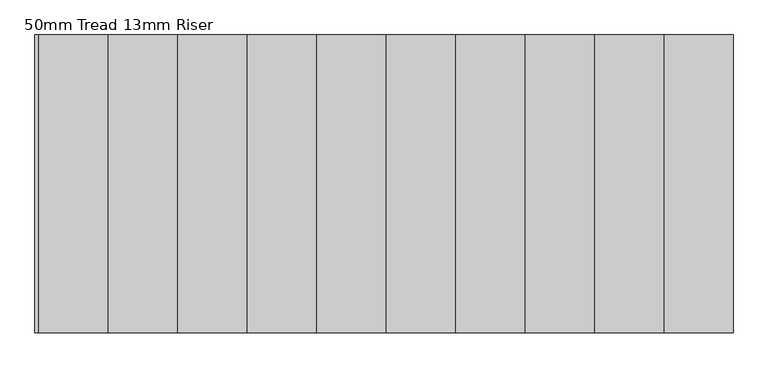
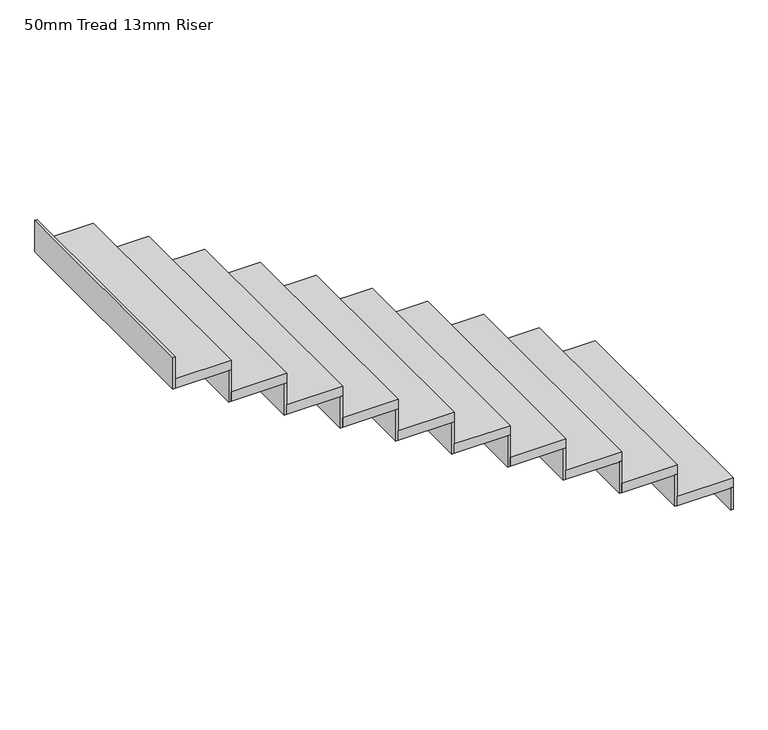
"""IFC4 building model written with IfcOpenShell, lengths in millimetres: stair flight geometry, 50mm Tread 13mm Riser."""

import ifcopenshell
import ifcopenshell.guid

model = None  # the IFC model being written
_history = None  # IfcOwnerHistory: only IFC2X3 demands one
_inside = {}  # id of a spatial element -> (the spatial element, [elements in it])
_under = {}  # id of a project, library or spatial element -> (it, [spatial elements below it])
_declared = {}  # id of a project -> (the project, [libraries it declares])
_typed = {}  # id of a type object -> (the type object, [elements of that type])
_made_of = {}  # id of a material, layer set ... -> (it, [elements and type objects made of it])


def new_model(schema):
    """Start an empty IFC model of exactly this schema.

    Asked for "IFC4X3", IfcOpenShell would pick the latest addendum, in which some entities
    have other attributes; the version numbers below select the first issue.
    IFC2X3 requires an IfcOwnerHistory on every rooted entity: one is made here for all.
    """
    global model, _history
    if schema == "IFC4X3":
        model = ifcopenshell.file(schema_version=(4, 3, 0, 0))
    else:
        model = ifcopenshell.file(schema=schema)
    _inside.clear()
    _under.clear()
    _declared.clear()
    _typed.clear()
    _made_of.clear()
    _history = None
    if model.schema == "IFC2X3":
        org = make("IfcOrganization", Name="unknown")
        user = make(
            "IfcPersonAndOrganization",
            ThePerson=make("IfcPerson", FamilyName="unknown"),
            TheOrganization=org,
        )
        app = make(
            "IfcApplication",
            ApplicationDeveloper=org,
            Version="unknown",
            ApplicationFullName="unknown",
            ApplicationIdentifier="unknown",
        )
        _history = make(
            "IfcOwnerHistory",
            OwningUser=user,
            OwningApplication=app,
            ChangeAction="ADDED",
            CreationDate=0,
        )
    return model


def make(cls, **values):
    """One entity of the class cls with the attributes given. An attribute that is None is left unset."""
    return model.create_entity(
        cls, **{name: value for name, value in values.items() if value is not None}
    )


def rooted(cls, **values):
    """An entity with a GlobalId (a new one), such as an element, a storey or a relation."""
    return make(cls, GlobalId=ifcopenshell.guid.new(), OwnerHistory=_history, **values)


def si_unit(unit_type, name, prefix=None):
    """IfcSIUnit, for example si_unit("LENGTHUNIT", "METRE", prefix="MILLI")."""
    return make("IfcSIUnit", UnitType=unit_type, Prefix=prefix, Name=name)


def assignment(units):
    """IfcUnitAssignment: the units of a project."""
    return None if units is None else make("IfcUnitAssignment", Units=units)


def point(xyz):
    """IfcCartesianPoint."""
    return None if xyz is None else make("IfcCartesianPoint", Coordinates=xyz)


def direction(xyz):
    """IfcDirection."""
    return None if xyz is None else make("IfcDirection", DirectionRatios=xyz)


def frame(location, z_axis=None, x_axis=None):
    """IfcAxis2Placement3D, a coordinate frame: its origin and axes. An axis left out is left unset."""
    return make(
        "IfcAxis2Placement3D",
        Location=point(location),
        Axis=direction(z_axis),
        RefDirection=direction(x_axis),
    )


def origin():
    """The frame at (0, 0, 0) with its axes left unset."""
    return frame((0.0, 0.0, 0.0))


def place(relative_to, where):
    """IfcLocalPlacement: puts the frame where relative to a parent placement (None: the world)."""
    return make(
        "IfcLocalPlacement", PlacementRelTo=relative_to, RelativePlacement=where
    )


def context(
    kind, dimensions, precision=None, world=None, true_north=None, identifier=None
):
    """IfcGeometricRepresentationContext, for example the 3D "Model" context."""
    return make(
        "IfcGeometricRepresentationContext",
        ContextIdentifier=identifier,
        ContextType=kind,
        CoordinateSpaceDimension=dimensions,
        Precision=precision,
        WorldCoordinateSystem=world,
        TrueNorth=true_north,
    )


def project(units=None, contexts=None):
    """IfcProject with its units and contexts."""
    return rooted(
        "IfcProject",
        Name="project",
        RepresentationContexts=contexts,
        UnitsInContext=assignment(units),
    )


def spatial(cls, under=None, at=None, **own):
    """A site, building, storey or space (cls), placed at a placement, below another one or the project."""
    s = rooted(cls, ObjectPlacement=at, **own)
    if under is not None:
        _under.setdefault(under.id(), (under, []))[1].append(s)
    return s


def polyline(points):
    """IfcPolyline through the points."""
    return make("IfcPolyline", Points=[point(p) for p in points])


def outline(outer, holes=None, kind="AREA"):
    """IfcArbitraryClosedProfileDef: a profile drawn as a closed curve; with holes, ...WithVoids."""
    if holes is None:
        return make("IfcArbitraryClosedProfileDef", ProfileType=kind, OuterCurve=outer)
    return make(
        "IfcArbitraryProfileDefWithVoids",
        ProfileType=kind,
        OuterCurve=outer,
        InnerCurves=holes,
    )


def extrude(swept, where, along, depth):
    """IfcExtrudedAreaSolid: the profile swept, set in the frame where, extruded along a direction by depth."""
    return make(
        "IfcExtrudedAreaSolid",
        SweptArea=swept,
        Position=where,
        ExtrudedDirection=direction(along),
        Depth=depth,
    )


def shape(context_of_items, identifier, shape_type, items):
    """IfcShapeRepresentation: the items that make up one representation, for example the "Body"."""
    return make(
        "IfcShapeRepresentation",
        ContextOfItems=context_of_items,
        RepresentationIdentifier=identifier,
        RepresentationType=shape_type,
        Items=items,
    )


def source(mapping_origin, context_of_items, identifier, shape_type, items):
    """IfcRepresentationMap: a shape defined once, which mapped items show again and again."""
    return make(
        "IfcRepresentationMap",
        MappingOrigin=mapping_origin,
        MappedRepresentation=shape(context_of_items, identifier, shape_type, items),
    )


def transform(
    local_origin,
    x_axis=None,
    y_axis=None,
    z_axis=None,
    scale=None,
    scale2=None,
    scale3=None,
    uniform=True,
):
    """IfcCartesianTransformationOperator3D, or its non-uniform kind. x_axis, y_axis, z_axis: its Axis1, 2, 3."""
    if uniform:
        return make(
            "IfcCartesianTransformationOperator3D",
            Axis1=direction(x_axis),
            Axis2=direction(y_axis),
            LocalOrigin=point(local_origin),
            Scale=scale,
            Axis3=direction(z_axis),
        )
    return make(
        "IfcCartesianTransformationOperator3DnonUniform",
        Axis1=direction(x_axis),
        Axis2=direction(y_axis),
        LocalOrigin=point(local_origin),
        Scale=scale,
        Axis3=direction(z_axis),
        Scale2=scale2,
        Scale3=scale3,
    )


def mapped(mapping_source, mapping_target):
    """IfcMappedItem: shows the shape of a source again, moved by a transform."""
    return make(
        "IfcMappedItem", MappingSource=mapping_source, MappingTarget=mapping_target
    )


def made_of(thing, what):
    """Note that an element or type object is made of a material, layer set ...; save() writes the relation."""
    if what is not None:
        _made_of.setdefault(what.id(), (what, []))[1].append(thing)
    return thing


def element(
    cls,
    number,
    at=None,
    inside=None,
    cuts=None,
    type_object=None,
    material=None,
    context=None,
    identifier="Body",
    shape_type=None,
    held_by="IfcProductDefinitionShape",
    body=None,
    shapes=None,
    **own,
):
    """One element of the class cls, such as IfcWall. Its Tag is "e" and its number.

    at: its placement. inside: the storey or other place that contains it. cuts: it is an
    opening in that element (IfcRelVoidsElement). A single representation is given by context,
    identifier, shape_type and body (its items); several are given by shapes. held_by: the class
    of the entity that holds the representations. save() writes the other relations.
    """
    e = rooted(cls, Tag="e%d" % number, ObjectPlacement=at, **own)
    if body is not None:
        shapes = [shape(context, identifier, shape_type, body)]
    if shapes is not None:
        e.Representation = make(held_by, Representations=shapes)
    if inside is not None:
        _inside.setdefault(inside.id(), (inside, []))[1].append(e)
    if cuts is not None:
        rooted(
            "IfcRelVoidsElement", RelatingBuildingElement=cuts, RelatedOpeningElement=e
        )
    if type_object is not None:
        _typed.setdefault(type_object.id(), (type_object, []))[1].append(e)
    return made_of(e, material)


def aggregate(whole, parts):
    """IfcRelAggregates: a whole, such as a stair, and the parts it consists of."""
    return rooted("IfcRelAggregates", RelatingObject=whole, RelatedObjects=parts)


def save(model, path):
    """Write the relations noted so far, then the file.

    IfcRelAggregates (storeys below a building ...), IfcRelContainedInSpatialStructure (elements
    in a storey), IfcRelDefinesByType, IfcRelAssociatesMaterial and IfcRelDeclares: one each for
    every whole, place, type object, material and project.
    """
    for whole, parts in _under.values():
        aggregate(whole, parts)
    for where, things in _inside.values():
        rooted(
            "IfcRelContainedInSpatialStructure",
            RelatedElements=things,
            RelatingStructure=where,
        )
    for kind, things in _typed.values():
        rooted("IfcRelDefinesByType", RelatedObjects=things, RelatingType=kind)
    for what, things in _made_of.values():
        rooted("IfcRelAssociatesMaterial", RelatedObjects=things, RelatingMaterial=what)
    for by, libraries in _declared.values():
        rooted("IfcRelDeclares", RelatingContext=by, RelatedDefinitions=libraries)
    model.write(path)


def stair_flight_50mm_tread_13mm_riser_9f3b3ad1(model_context):
    return source(origin(), model_context, "Body", "SweptSolid", [
        extrude(outline(polyline([(-76709.6407976, 11339.2777512), (-76697.1407976, 11339.2777512), (-76697.1407976, 10139.2777512), (-76709.6407976, 10139.2777512), (-76709.6407976, 11339.2777512)])), frame((0.0, 0.0, 44170.0), z_axis=(0.0, 0.0, 1.0), x_axis=(1.0, 0.0, 0.0)), (0.0, 0.0, 1.0), 117.2465025),
        extrude(outline(polyline([(-76977.1407976, 10139.2777512), (-76977.1407976, 11339.2777512), (-76697.1407976, 11339.2777512), (-76697.1407976, 10139.2777512), (-76977.1407976, 10139.2777512)])), frame((0.0, 0.0, 44287.2465025), z_axis=(0.0, 0.0, 1.0), x_axis=(1.0, 0.0, 0.0)), (0.0, 0.0, 1.0), 50.0),
        extrude(outline(polyline([(-76989.6407976, 11339.2777512), (-76977.1407976, 11339.2777512), (-76977.1407976, 10139.2777512), (-76989.6407976, 10139.2777512), (-76989.6407976, 11339.2777512)])), frame((0.0, 0.0, 44287.2465025), z_axis=(0.0, 0.0, 1.0), x_axis=(1.0, 0.0, 0.0)), (0.0, 0.0, 1.0), 167.2465025),
        extrude(outline(polyline([(-77257.1407976, 10139.2777512), (-77257.1407976, 11339.2777512), (-76977.1407976, 11339.2777512), (-76977.1407976, 10139.2777512), (-77257.1407976, 10139.2777512)])), frame((0.0, 0.0, 44454.4930051), z_axis=(0.0, 0.0, 1.0), x_axis=(1.0, 0.0, 0.0)), (0.0, 0.0, 1.0), 50.0),
        extrude(outline(polyline([(-77269.6407976, 11339.2777512), (-77257.1407976, 11339.2777512), (-77257.1407976, 10139.2777512), (-77269.6407976, 10139.2777512), (-77269.6407976, 11339.2777512)])), frame((0.0, 0.0, 44454.4930051), z_axis=(0.0, 0.0, 1.0), x_axis=(1.0, 0.0, 0.0)), (0.0, 0.0, 1.0), 167.2465025),
        extrude(outline(polyline([(-77537.1407976, 10139.2777512), (-77537.1407976, 11339.2777512), (-77257.1407976, 11339.2777512), (-77257.1407976, 10139.2777512), (-77537.1407976, 10139.2777512)])), frame((0.0, 0.0, 44621.7395076), z_axis=(0.0, 0.0, 1.0), x_axis=(1.0, 0.0, 0.0)), (0.0, 0.0, 1.0), 50.0),
        extrude(outline(polyline([(-77549.6407976, 11339.2777512), (-77537.1407976, 11339.2777512), (-77537.1407976, 10139.2777512), (-77549.6407976, 10139.2777512), (-77549.6407976, 11339.2777512)])), frame((0.0, 0.0, 44621.7395076), z_axis=(0.0, 0.0, 1.0), x_axis=(1.0, 0.0, 0.0)), (0.0, 0.0, 1.0), 167.2465025),
        extrude(outline(polyline([(-77817.1407976, 10139.2777512), (-77817.1407976, 11339.2777512), (-77537.1407976, 11339.2777512), (-77537.1407976, 10139.2777512), (-77817.1407976, 10139.2777512)])), frame((0.0, 0.0, 44788.9860101), z_axis=(0.0, 0.0, 1.0), x_axis=(1.0, 0.0, 0.0)), (0.0, 0.0, 1.0), 50.0),
        extrude(outline(polyline([(-77829.6407976, 11339.2777512), (-77817.1407976, 11339.2777512), (-77817.1407976, 10139.2777512), (-77829.6407976, 10139.2777512), (-77829.6407976, 11339.2777512)])), frame((0.0, 0.0, 44788.9860101), z_axis=(0.0, 0.0, 1.0), x_axis=(1.0, 0.0, 0.0)), (0.0, 0.0, 1.0), 167.2465025),
        extrude(outline(polyline([(-78097.1407976, 10139.2777512), (-78097.1407976, 11339.2777512), (-77817.1407976, 11339.2777512), (-77817.1407976, 10139.2777512), (-78097.1407976, 10139.2777512)])), frame((0.0, 0.0, 44956.2325126), z_axis=(0.0, 0.0, 1.0), x_axis=(1.0, 0.0, 0.0)), (0.0, 0.0, 1.0), 50.0),
        extrude(outline(polyline([(-78109.6407976, 11339.2777512), (-78097.1407976, 11339.2777512), (-78097.1407976, 10139.2777512), (-78109.6407976, 10139.2777512), (-78109.6407976, 11339.2777512)])), frame((0.0, 0.0, 44956.2325126), z_axis=(0.0, 0.0, 1.0), x_axis=(1.0, 0.0, 0.0)), (0.0, 0.0, 1.0), 167.2465025),
        extrude(outline(polyline([(-78377.1407976, 10139.2777512), (-78377.1407976, 11339.2777512), (-78097.1407976, 11339.2777512), (-78097.1407976, 10139.2777512), (-78377.1407976, 10139.2777512)])), frame((0.0, 0.0, 45123.4790152), z_axis=(0.0, 0.0, 1.0), x_axis=(1.0, 0.0, 0.0)), (0.0, 0.0, 1.0), 50.0),
        extrude(outline(polyline([(-78389.6407976, 11339.2777512), (-78377.1407976, 11339.2777512), (-78377.1407976, 10139.2777512), (-78389.6407976, 10139.2777512), (-78389.6407976, 11339.2777512)])), frame((0.0, 0.0, 45123.4790152), z_axis=(0.0, 0.0, 1.0), x_axis=(1.0, 0.0, 0.0)), (0.0, 0.0, 1.0), 167.2465025),
        extrude(outline(polyline([(-78657.1407976, 10139.2777512), (-78657.1407976, 11339.2777512), (-78377.1407976, 11339.2777512), (-78377.1407976, 10139.2777512), (-78657.1407976, 10139.2777512)])), frame((0.0, 0.0, 45290.7255177), z_axis=(0.0, 0.0, 1.0), x_axis=(1.0, 0.0, 0.0)), (0.0, 0.0, 1.0), 50.0),
        extrude(outline(polyline([(-78669.6407976, 11339.2777512), (-78657.1407976, 11339.2777512), (-78657.1407976, 10139.2777512), (-78669.6407976, 10139.2777512), (-78669.6407976, 11339.2777512)])), frame((0.0, 0.0, 45290.7255177), z_axis=(0.0, 0.0, 1.0), x_axis=(1.0, 0.0, 0.0)), (0.0, 0.0, 1.0), 167.2465025),
        extrude(outline(polyline([(-78937.1407976, 10139.2777512), (-78937.1407976, 11339.2777512), (-78657.1407976, 11339.2777512), (-78657.1407976, 10139.2777512), (-78937.1407976, 10139.2777512)])), frame((0.0, 0.0, 45457.9720202), z_axis=(0.0, 0.0, 1.0), x_axis=(1.0, 0.0, 0.0)), (0.0, 0.0, 1.0), 50.0),
        extrude(outline(polyline([(-78949.6407976, 11339.2777512), (-78937.1407976, 11339.2777512), (-78937.1407976, 10139.2777512), (-78949.6407976, 10139.2777512), (-78949.6407976, 11339.2777512)])), frame((0.0, 0.0, 45457.9720202), z_axis=(0.0, 0.0, 1.0), x_axis=(1.0, 0.0, 0.0)), (0.0, 0.0, 1.0), 167.2465025),
        extrude(outline(polyline([(-79217.1407976, 10139.2777512), (-79217.1407976, 11339.2777512), (-78937.1407976, 11339.2777512), (-78937.1407976, 10139.2777512), (-79217.1407976, 10139.2777512)])), frame((0.0, 0.0, 45625.2185228), z_axis=(0.0, 0.0, 1.0), x_axis=(1.0, 0.0, 0.0)), (0.0, 0.0, 1.0), 50.0),
        extrude(outline(polyline([(-79229.6407976, 11339.2777512), (-79217.1407976, 11339.2777512), (-79217.1407976, 10139.2777512), (-79229.6407976, 10139.2777512), (-79229.6407976, 11339.2777512)])), frame((0.0, 0.0, 45625.2185228), z_axis=(0.0, 0.0, 1.0), x_axis=(1.0, 0.0, 0.0)), (0.0, 0.0, 1.0), 167.2465025),
        extrude(outline(polyline([(-79509.6407976, 11339.2777512), (-79497.1407976, 11339.2777512), (-79497.1407976, 10139.2777512), (-79509.6407976, 10139.2777512), (-79509.6407976, 11339.2777512)])), frame((0.0, 0.0, 45792.4650253), z_axis=(0.0, 0.0, 1.0), x_axis=(1.0, 0.0, 0.0)), (0.0, 0.0, 1.0), 167.2465025),
        extrude(outline(polyline([(-79497.1407976, 10139.2777512), (-79497.1407976, 11339.2777512), (-79217.1407976, 11339.2777512), (-79217.1407976, 10139.2777512), (-79497.1407976, 10139.2777512)])), frame((0.0, 0.0, 45792.4650253), z_axis=(0.0, 0.0, 1.0), x_axis=(1.0, 0.0, 0.0)), (0.0, 0.0, 1.0), 50.0),
    ])


if __name__ == "__main__":
    model = new_model("IFC4")
    model_context = context("Model", 3, world=origin())
    ifc_project = project(units=[si_unit("LENGTHUNIT", "METRE", prefix="MILLI")], contexts=[model_context])
    site = spatial("IfcSite", under=ifc_project)
    building = spatial("IfcBuilding", under=site)
    placement = place(None, origin())
    stair_flight_50mm_tread_13mm_riser_shape = stair_flight_50mm_tread_13mm_riser_9f3b3ad1(model_context)
    element("IfcStairFlight", 1, ObjectType="50mm Tread 13mm Riser", at=placement, inside=building, context=model_context, shape_type="MappedRepresentation", body=[
        mapped(stair_flight_50mm_tread_13mm_riser_shape, transform((0.0, 0.0, 0.0), x_axis=(1.0, 0.0, 0.0), y_axis=(0.0, 1.0, 0.0), z_axis=(0.0, 0.0, 1.0))),
    ])
    save(model, "model.ifc")
